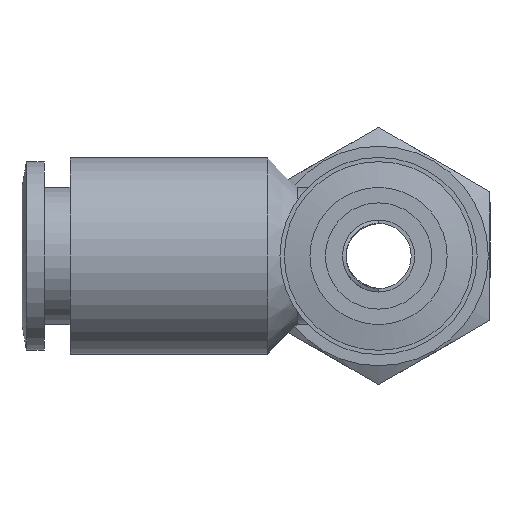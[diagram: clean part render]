
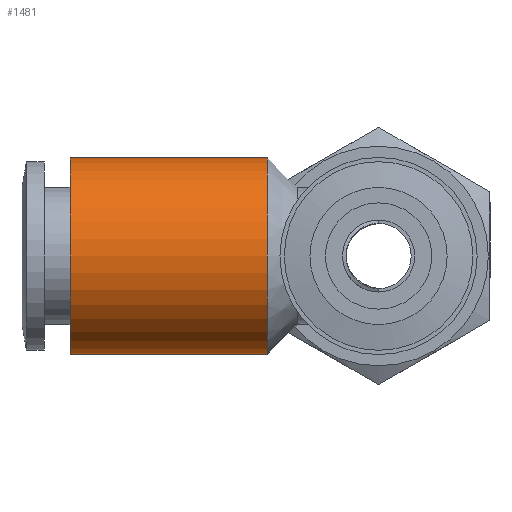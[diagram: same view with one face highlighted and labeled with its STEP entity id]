
A CAD part, left-side view. The second image highlights one B-rep face of the part: STEP entity #1481.
In plain terms, the highlighted cylindrical face has radius 5.75 mm (diameter 11.5 mm), a full revolution.
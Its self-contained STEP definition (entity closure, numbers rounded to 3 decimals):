
#1447=CARTESIAN_POINT('',(-5.75,6.5,0.0));
#1448=VERTEX_POINT('',#1447);
#1449=CARTESIAN_POINT('',(0.0,6.5,0.0));
#1450=DIRECTION('',(0.0,1.0,0.0));
#1451=DIRECTION('',(-1.0,0.0,0.0));
#1452=AXIS2_PLACEMENT_3D('',#1449,#1450,#1451);
#1453=CIRCLE('',#1452,5.75);
#1454=EDGE_CURVE('',#1448,#1448,#1453,.T.);
#1462=CARTESIAN_POINT('',(0.0,12.25,0.0));
#1463=DIRECTION('',(0.0,1.0,0.0));
#1464=DIRECTION('',(-1.0,0.0,0.0));
#1465=AXIS2_PLACEMENT_3D('',#1462,#1463,#1464);
#1466=CYLINDRICAL_SURFACE('',#1465,5.75);
#1467=CARTESIAN_POINT('',(-5.75,18.0,0.0));
#1468=VERTEX_POINT('',#1467);
#1469=CARTESIAN_POINT('',(0.0,18.0,0.0));
#1470=DIRECTION('',(0.0,1.0,0.0));
#1471=DIRECTION('',(-1.0,0.0,0.0));
#1472=AXIS2_PLACEMENT_3D('',#1469,#1470,#1471);
#1473=CIRCLE('',#1472,5.75);
#1474=EDGE_CURVE('',#1468,#1468,#1473,.T.);
#1475=ORIENTED_EDGE('',*,*,#1474,.F.);
#1476=EDGE_LOOP('',(#1475));
#1477=FACE_OUTER_BOUND('',#1476,.T.);
#1478=ORIENTED_EDGE('',*,*,#1454,.T.);
#1479=EDGE_LOOP('',(#1478));
#1480=FACE_BOUND('',#1479,.T.);
#1481=ADVANCED_FACE('',(#1477,#1480),#1466,.T.);
